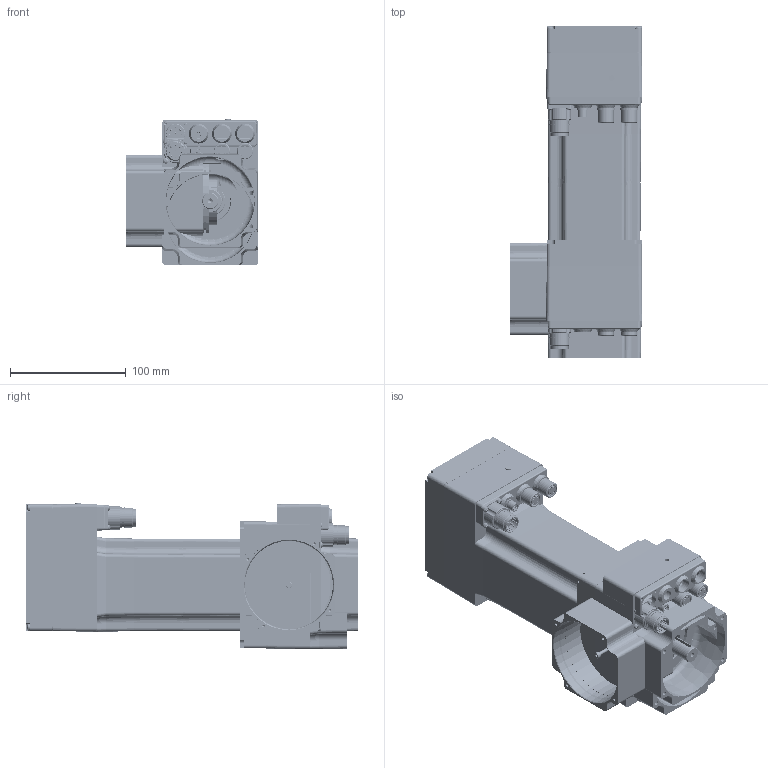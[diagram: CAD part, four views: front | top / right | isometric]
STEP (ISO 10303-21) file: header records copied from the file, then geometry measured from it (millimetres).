
FILE_DESCRIPTION( ( 'Unknown' ), '1' );
FILE_NAME( 'C:/Users/dotti/Desktop/Q0B225/Q0B225 1,5.stp', 'Unknown', ( 'Unknown' ), ( 'Unknown' ), 'PSStep 14.0', 'Unknown', ' ' );
FILE_SCHEMA( ( 'AUTOMOTIVE_DESIGN { 1 0 10303 214 1 1 1 1 }' ) );
Length unit declared in the file: millimetre
Products named in the file (45): T00272; Assem1; 005117000974; N54236; CN M23 PAN-POT BEGA 906 4+5p; VECST-8112 M  2,5 x 12; G00030_ethercat; N33250; LI-PIA   5x5 x 25; CUSC_20_42_12_6004_ZZ; CUSC_15_32_9_6002_ZZ; a-ela  20; Anello-elastico-chiuso  42; LI-PIA   5x5 x 18; N09285; N27221; Anello-elastico-chiuso  32; Vite a brugola testa cil 8,8 -  M  3 x 25; Vite a brugola testa cil 8,8 -  M  3 x 25-oa0; Vite a brugola testa cil 8,8 -  M  3 x 25-oa1; Vite a brugola testa cil 8,8 -  M  3 x 25-oa2; Vite a brugola testa cil 8,8 -  M  3 x 40; Vite a brugola testa cil 8,8 -  M  3 x 40-oa3; Vite a brugola testa cil 8,8 -  M  3 x 40-oa4; Vite a brugola testa cil 8,8 -  M  3 x 40-oa5; N35217; VECST-8112 M  3 x 30; N01385; N54239; 003016000054
Bounding box: 114.5 x 286.13 x 126.21 mm (x, y, z)
Volume: 1220753.3 mm3; surface area: 607809.8 mm2
Topology: 103 solids, 107 shells, 7074 faces, 19100 edges, 12511 vertices
Faces by surface type: plane 3792, cylinder 2428, cone 299, bspline 283, torus 219, sphere 53
Full cylindrical faces by diameter (mm): 1 x39, 1.5 x12, 1.6 x45, 2 x4, 2.4 x24, 2.459 x62, 2.5 x17, 2.7 x12, 3 x21, 3.5 x48, 4 x5, 4.2 x4, 5 x11, 5.5 x16, 6 x36, 8 x17, 8.5 x9, 8.75 x3, 9 x8, 10 x3, 11 x15, 11.9 x5, 12 x6, 14 x9, 14.001 x2, 14.4 x3, 14.5 x3, 15 x4, 15.001 x2, 15.6 x3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
Entity records: 91092 total; most frequent: CARTESIAN_POINT 24295, DIRECTION 10995, ORIENTED_EDGE 10780, EDGE_CURVE 5390, AXIS2_PLACEMENT_3D 4076, VERTEX_POINT 3711, EDGE_LOOP 2859, LINE 2843
